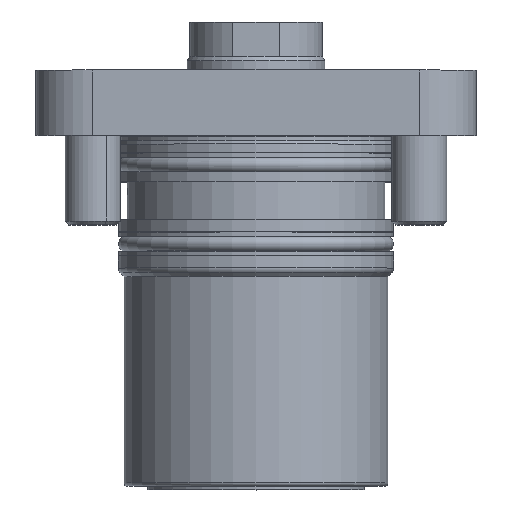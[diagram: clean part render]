
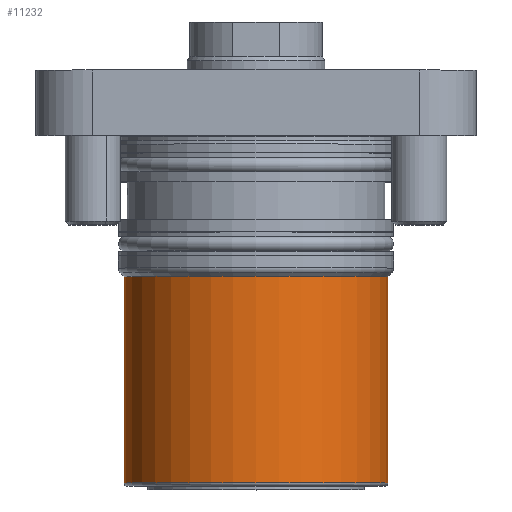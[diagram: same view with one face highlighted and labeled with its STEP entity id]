
A CAD part, top view. The second image highlights one B-rep face of the part: STEP entity #11232.
In plain terms, the highlighted cylindrical face has radius 38.35 mm (diameter 76.7 mm), a partial arc.
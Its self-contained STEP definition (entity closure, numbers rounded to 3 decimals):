
#106 = AXIS2_PLACEMENT_3D ( 'NONE', #527, #7473, #10630 ) ;
#313 = LINE ( 'NONE', #1137, #3924 ) ;
#527 = CARTESIAN_POINT ( 'NONE',  ( 0., 2., 0. ) ) ;
#843 = CIRCLE ( 'NONE', #106, 38.35 ) ;
#1059 = VECTOR ( 'NONE', #12710, 1000. ) ;
#1137 = CARTESIAN_POINT ( 'NONE',  ( -38.35, 40.193, 0. ) ) ;
#1231 = DIRECTION ( 'NONE',  ( 0., 1., 0. ) ) ;
#1374 = LINE ( 'NONE', #4759, #1059 ) ;
#1563 = VERTEX_POINT ( 'NONE', #3863 ) ;
#1604 = VERTEX_POINT ( 'NONE', #11238 ) ;
#1782 = VERTEX_POINT ( 'NONE', #8413 ) ;
#3863 = CARTESIAN_POINT ( 'NONE',  ( 38.35, 62., 0. ) ) ;
#3924 = VECTOR ( 'NONE', #8183, 1000. ) ;
#3937 = CYLINDRICAL_SURFACE ( 'NONE', #6989, 38.35 ) ;
#4114 = CARTESIAN_POINT ( 'NONE',  ( 0., 62., 0. ) ) ;
#4734 = EDGE_LOOP ( 'NONE', ( #8089, #7637, #5244, #5584 ) ) ;
#4759 = CARTESIAN_POINT ( 'NONE',  ( 38.35, 40.193, 0. ) ) ;
#4776 = VERTEX_POINT ( 'NONE', #6226 ) ;
#5030 = EDGE_CURVE ( 'NONE', #1604, #1782, #313, .T. ) ;
#5120 = DIRECTION ( 'NONE',  ( -1., 0., 0. ) ) ;
#5198 = CARTESIAN_POINT ( 'NONE',  ( 0., 40.193, 0. ) ) ;
#5244 = ORIENTED_EDGE ( 'NONE', *, *, #12724, .F. ) ;
#5584 = ORIENTED_EDGE ( 'NONE', *, *, #5030, .F. ) ;
#6226 = CARTESIAN_POINT ( 'NONE',  ( 38.35, 2., 0. ) ) ;
#6989 = AXIS2_PLACEMENT_3D ( 'NONE', #5198, #1231, #11284 ) ;
#7257 = EDGE_CURVE ( 'NONE', #4776, #1563, #1374, .T. ) ;
#7473 = DIRECTION ( 'NONE',  ( 0., 1., 0. ) ) ;
#7637 = ORIENTED_EDGE ( 'NONE', *, *, #7257, .T. ) ;
#8089 = ORIENTED_EDGE ( 'NONE', *, *, #9762, .T. ) ;
#8183 = DIRECTION ( 'NONE',  ( 0., 1., 0. ) ) ;
#8299 = AXIS2_PLACEMENT_3D ( 'NONE', #4114, #12134, #5120 ) ;
#8413 = CARTESIAN_POINT ( 'NONE',  ( -38.35, 62., 0. ) ) ;
#8803 = CIRCLE ( 'NONE', #8299, 38.35 ) ;
#9762 = EDGE_CURVE ( 'NONE', #1604, #4776, #843, .T. ) ;
#10245 = FACE_OUTER_BOUND ( 'NONE', #4734, .T. ) ;
#10630 = DIRECTION ( 'NONE',  ( -1., 0., 0. ) ) ;
#11232 = ADVANCED_FACE ( 'NONE', ( #10245 ), #3937, .T. ) ;
#11238 = CARTESIAN_POINT ( 'NONE',  ( -38.35, 2., 0. ) ) ;
#11284 = DIRECTION ( 'NONE',  ( -1., 0., 0. ) ) ;
#12134 = DIRECTION ( 'NONE',  ( 0., 1., 0. ) ) ;
#12710 = DIRECTION ( 'NONE',  ( 0., 1., 0. ) ) ;
#12724 = EDGE_CURVE ( 'NONE', #1782, #1563, #8803, .T. ) ;
